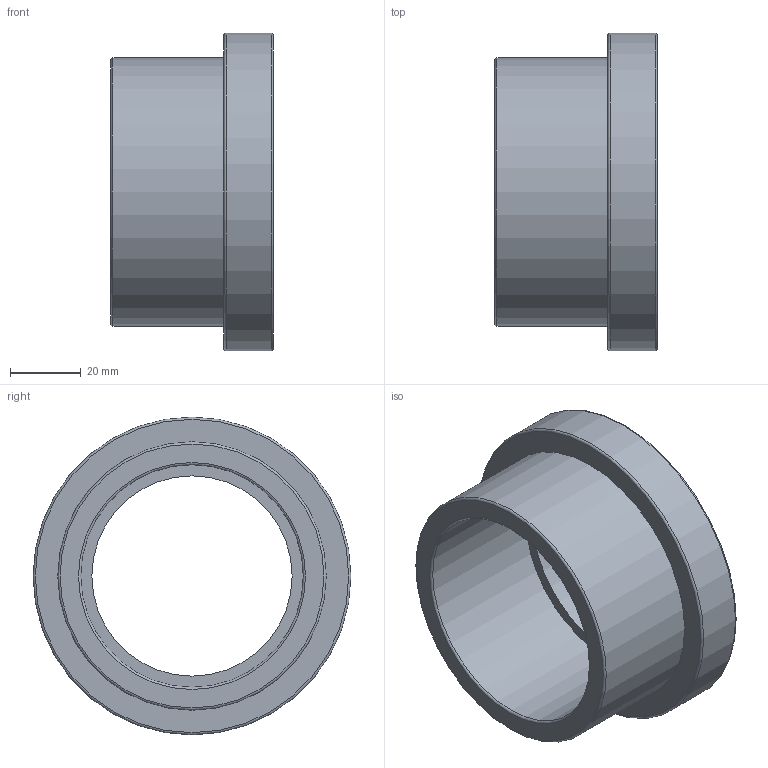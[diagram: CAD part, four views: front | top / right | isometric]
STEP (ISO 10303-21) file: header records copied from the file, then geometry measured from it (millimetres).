
FILE_DESCRIPTION(/* description */ ('PLASSON FLANGE AD.+O-RING-CE 63'),/* implementation_level */ '2;1');
FILE_NAME(/* name */ 'C:\Dropbox\KIMPROJECTS-Inventor\99-16-3568-Processing\PVC Catalog 2017\055000\055000063.ipt.stp',/* time_stamp */ '2017-12-07T16:04:38+02:00',/* author */ ('KIM'),/* organization */ (''),/* preprocessor_version */ 'ST-DEVELOPER v15.6',/* originating_system */ 'Autodesk Inventor 2015',/* authorisation */ '');
FILE_SCHEMA (('AUTOMOTIVE_DESIGN { 1 0 10303 214 3 1 1 }'));
Length unit declared in the file: millimetre
Products named in the file (1): 055000063
Bounding box: 46 x 90 x 90 mm (x, y, z)
Volume: 90641 mm3; surface area: 29585.4 mm2
Topology: 1 solids, 1 shells, 21 faces, 36 edges, 21 vertices
Faces by surface type: torus 9, plane 6, cylinder 6
Full cylindrical faces by diameter (mm): 56.7 x1, 63 x1, 68.355 x1, 76 x1, 78.345 x1, 90 x1
Entity records: 452 total; most frequent: DIRECTION 86, CARTESIAN_POINT 64, AXIS2_PLACEMENT_3D 43, EDGE_LOOP 42, ORIENTED_EDGE 42, FACE_BOUND 21, FACE_OUTER_BOUND 21, CIRCLE 21
